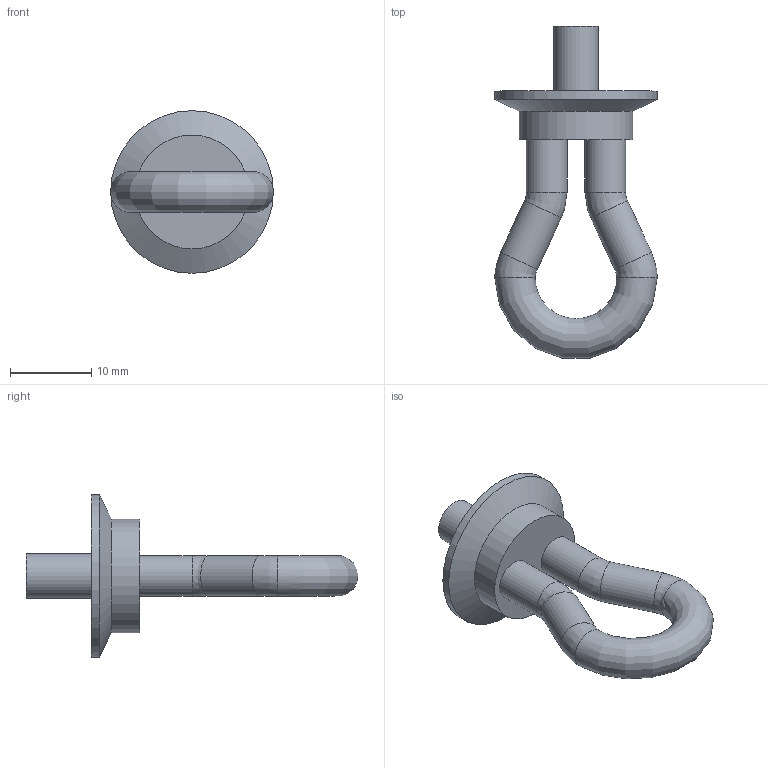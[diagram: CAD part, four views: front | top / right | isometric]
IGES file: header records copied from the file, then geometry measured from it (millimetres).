
Start section: Data from Parasolid IGES Translator 15.0.47, Copyright(c) 2006 Siemens P LM Software. All Rights Reserved.
Global section: file name: 9113594.igs; native system:  By UGS Corp.; preprocessor: XPlus GENERIC/IGES 3.0; author: Noname; organization: Noname; date: 20140122.100117; units: millimetre
Bounding box: 20 x 40.85 x 20 mm (x, y, z)
Surface area: 2005.2 mm2 (no closed solid volume)
Topology: 0 solids, 0 shells, 18 faces, 76 edges, 62 vertices
Faces by surface type: revolution 14, extrusion 4
